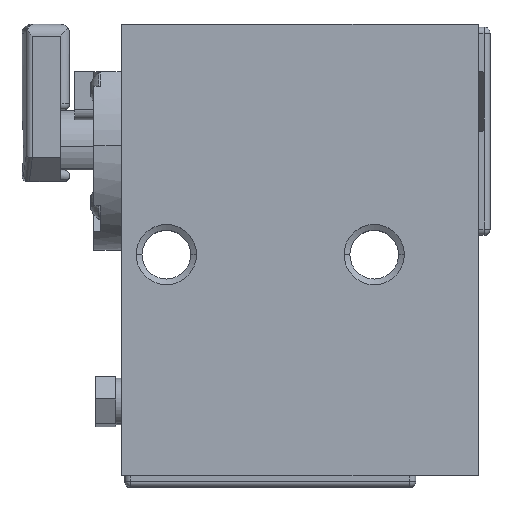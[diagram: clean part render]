
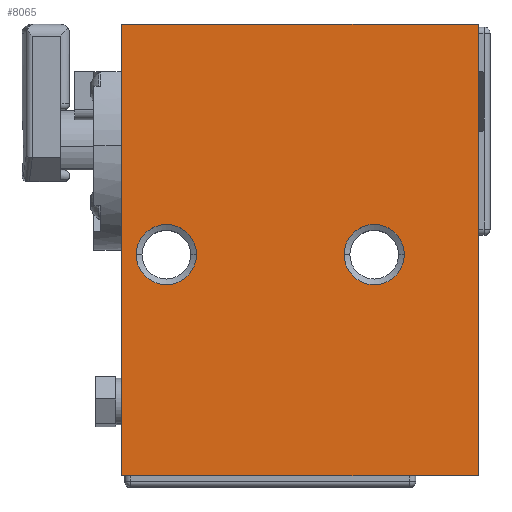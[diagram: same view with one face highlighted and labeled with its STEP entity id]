
A CAD part, top view. The second image highlights one B-rep face of the part: STEP entity #8065.
In plain terms, the highlighted planar face has unit normal (0, 0, 1).
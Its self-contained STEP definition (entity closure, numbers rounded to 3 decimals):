
#267 = DIRECTION ( 'NONE',  ( -1., 0., 0. ) ) ;
#268 = CIRCLE ( 'NONE', #6763, 5.075 ) ;
#328 = DIRECTION ( 'NONE',  ( 1., 0., 0. ) ) ;
#732 = ORIENTED_EDGE ( 'NONE', *, *, #5233, .F. ) ;
#951 = DIRECTION ( 'NONE',  ( 1., 0., 0. ) ) ;
#990 = ORIENTED_EDGE ( 'NONE', *, *, #5696, .T. ) ;
#1058 = ORIENTED_EDGE ( 'NONE', *, *, #8234, .F. ) ;
#1099 = VERTEX_POINT ( 'NONE', #5898 ) ;
#1267 = ORIENTED_EDGE ( 'NONE', *, *, #6242, .F. ) ;
#1345 = DIRECTION ( 'NONE',  ( 1., 0., 0. ) ) ;
#1627 = AXIS2_PLACEMENT_3D ( 'NONE', #6628, #2522, #328 ) ;
#1680 = DIRECTION ( 'NONE',  ( -1., 0., 0. ) ) ;
#1733 = CARTESIAN_POINT ( 'NONE',  ( 0., 76., 40. ) ) ;
#1911 = EDGE_LOOP ( 'NONE', ( #1996, #1267 ) ) ;
#1996 = ORIENTED_EDGE ( 'NONE', *, *, #6950, .F. ) ;
#2010 = VERTEX_POINT ( 'NONE', #8623 ) ;
#2235 = AXIS2_PLACEMENT_3D ( 'NONE', #4727, #7486, #1345 ) ;
#2238 = DIRECTION ( 'NONE',  ( 0., 0., 1. ) ) ;
#2277 = DIRECTION ( 'NONE',  ( 0., 0., 1. ) ) ;
#2335 = CARTESIAN_POINT ( 'NONE',  ( 0., 76., 40. ) ) ;
#2522 = DIRECTION ( 'NONE',  ( 0., 0., 1. ) ) ;
#2595 = VERTEX_POINT ( 'NONE', #3928 ) ;
#2729 = EDGE_CURVE ( 'NONE', #2010, #3870, #3361, .T. ) ;
#2839 = CARTESIAN_POINT ( 'NONE',  ( 42.5, 37.2, 40. ) ) ;
#2977 = CARTESIAN_POINT ( 'NONE',  ( 60., 0., 40. ) ) ;
#2983 = LINE ( 'NONE', #5190, #8211 ) ;
#3292 = EDGE_LOOP ( 'NONE', ( #4192, #7535, #990, #7871 ) ) ;
#3361 = LINE ( 'NONE', #4969, #4948 ) ;
#3397 = VERTEX_POINT ( 'NONE', #7198 ) ;
#3566 = DIRECTION ( 'NONE',  ( 0., 1., 0. ) ) ;
#3692 = VERTEX_POINT ( 'NONE', #8182 ) ;
#3870 = VERTEX_POINT ( 'NONE', #5056 ) ;
#3928 = CARTESIAN_POINT ( 'NONE',  ( 12.575, 37.2, 40. ) ) ;
#4155 = CIRCLE ( 'NONE', #1627, 5.075 ) ;
#4192 = ORIENTED_EDGE ( 'NONE', *, *, #6509, .T. ) ;
#4207 = FACE_OUTER_BOUND ( 'NONE', #3292, .T. ) ;
#4361 = AXIS2_PLACEMENT_3D ( 'NONE', #5045, #2277, #951 ) ;
#4462 = AXIS2_PLACEMENT_3D ( 'NONE', #2335, #8466, #267 ) ;
#4504 = FACE_BOUND ( 'NONE', #1911, .T. ) ;
#4612 = FACE_BOUND ( 'NONE', #6033, .T. ) ;
#4727 = CARTESIAN_POINT ( 'NONE',  ( 7.5, 37.2, 40. ) ) ;
#4764 = LINE ( 'NONE', #2977, #8066 ) ;
#4948 = VECTOR ( 'NONE', #7693, 1000. ) ;
#4969 = CARTESIAN_POINT ( 'NONE',  ( 0., 0., 40. ) ) ;
#5003 = LINE ( 'NONE', #8599, #7994 ) ;
#5045 = CARTESIAN_POINT ( 'NONE',  ( 42.5, 37.2, 40. ) ) ;
#5056 = CARTESIAN_POINT ( 'NONE',  ( 60., 0., 40. ) ) ;
#5190 = CARTESIAN_POINT ( 'NONE',  ( 0., 0., 40. ) ) ;
#5224 = DIRECTION ( 'NONE',  ( 0., -1., 0. ) ) ;
#5233 = EDGE_CURVE ( 'NONE', #2595, #6209, #4155, .T. ) ;
#5696 = EDGE_CURVE ( 'NONE', #3870, #3397, #4764, .T. ) ;
#5898 = CARTESIAN_POINT ( 'NONE',  ( 37.425, 37.2, 40. ) ) ;
#6033 = EDGE_LOOP ( 'NONE', ( #732, #1058 ) ) ;
#6209 = VERTEX_POINT ( 'NONE', #7819 ) ;
#6242 = EDGE_CURVE ( 'NONE', #1099, #3692, #7854, .T. ) ;
#6509 = EDGE_CURVE ( 'NONE', #7641, #2010, #2983, .T. ) ;
#6529 = EDGE_CURVE ( 'NONE', #3397, #7641, #5003, .T. ) ;
#6628 = CARTESIAN_POINT ( 'NONE',  ( 7.5, 37.2, 40. ) ) ;
#6763 = AXIS2_PLACEMENT_3D ( 'NONE', #2839, #2238, #7026 ) ;
#6950 = EDGE_CURVE ( 'NONE', #3692, #1099, #268, .T. ) ;
#7026 = DIRECTION ( 'NONE',  ( 1., 0., 0. ) ) ;
#7198 = CARTESIAN_POINT ( 'NONE',  ( 60., 76., 40. ) ) ;
#7206 = PLANE ( 'NONE',  #4462 ) ;
#7486 = DIRECTION ( 'NONE',  ( 0., 0., 1. ) ) ;
#7535 = ORIENTED_EDGE ( 'NONE', *, *, #2729, .T. ) ;
#7641 = VERTEX_POINT ( 'NONE', #1733 ) ;
#7693 = DIRECTION ( 'NONE',  ( 1., 0., 0. ) ) ;
#7819 = CARTESIAN_POINT ( 'NONE',  ( 2.425, 37.2, 40. ) ) ;
#7854 = CIRCLE ( 'NONE', #4361, 5.075 ) ;
#7871 = ORIENTED_EDGE ( 'NONE', *, *, #6529, .T. ) ;
#7994 = VECTOR ( 'NONE', #1680, 1000. ) ;
#8065 = ADVANCED_FACE ( 'NONE', ( #4612, #4504, #4207 ), #7206, .F. ) ;
#8066 = VECTOR ( 'NONE', #3566, 1000. ) ;
#8182 = CARTESIAN_POINT ( 'NONE',  ( 47.575, 37.2, 40. ) ) ;
#8211 = VECTOR ( 'NONE', #5224, 1000. ) ;
#8234 = EDGE_CURVE ( 'NONE', #6209, #2595, #8638, .T. ) ;
#8466 = DIRECTION ( 'NONE',  ( 0., 0., -1. ) ) ;
#8599 = CARTESIAN_POINT ( 'NONE',  ( 0., 76., 40. ) ) ;
#8623 = CARTESIAN_POINT ( 'NONE',  ( 0., 0., 40. ) ) ;
#8638 = CIRCLE ( 'NONE', #2235, 5.075 ) ;
